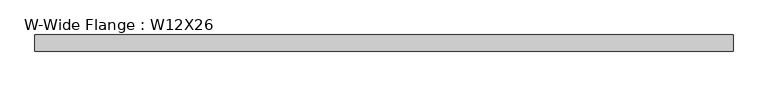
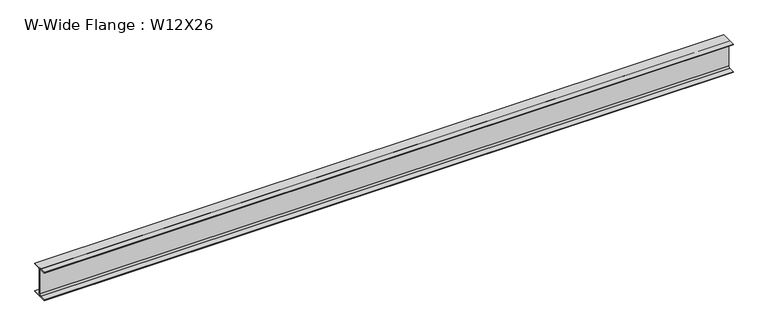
"""IFC4 building model written with IfcOpenShell, lengths in millimetres: beam geometry, W-Wide Flange : W12X26."""

from ifc_helpers import new_model, si_unit, point, frame, frame_2d, origin, place, context, project, spatial, polyline, circle_curve, trimmed, segment, composite_curve, outline, extrude, source, transform, mapped, element, save


def w_wide_flange_w12x26_2a9d9cf0(model_context):
    return source(origin(), model_context, "Body", "SweptSolid", [
        extrude(outline(composite_curve([segment(polyline([(82.4011719, -145.5539063), (82.4011719, -155.178125), (-82.4011719, -155.178125), (-82.4011719, -145.5539063), (-20.2902344, -145.5539063)]), True, "CONTINUOUS"), segment(trimmed(circle_curve(frame_2d((-20.2902344, -128.190625)), 17.3632812), [point((-20.2902344, -145.5539063))], [point((-2.9269531, -128.190625))], True, "CARTESIAN"), True, "CONTINUOUS"), segment(polyline([(-2.9269531, -128.190625), (-2.9269531, 128.190625)]), True, "CONTINUOUS"), segment(trimmed(circle_curve(frame_2d((-20.2902344, 128.190625)), 17.3632812), [point((-2.9269531, 128.190625))], [point((-20.2902344, 145.5539062))], True, "CARTESIAN"), True, "CONTINUOUS"), segment(polyline([(-20.2902344, 145.5539062), (-82.4011719, 145.5539062), (-82.4011719, 155.178125), (82.4011719, 155.178125), (82.4011719, 145.5539062), (20.2902344, 145.5539062)]), True, "CONTINUOUS"), segment(trimmed(circle_curve(frame_2d((20.2902344, 128.190625)), 17.3632812), [point((20.2902344, 145.5539062))], [point((2.9269531, 128.190625))], True, "CARTESIAN"), True, "CONTINUOUS"), segment(polyline([(2.9269531, 128.190625), (2.9269531, -128.190625)]), True, "CONTINUOUS"), segment(trimmed(circle_curve(frame_2d((20.2902344, -128.190625)), 17.3632812), [point((2.9269531, -128.190625))], [point((20.2902344, -145.5539063))], True, "CARTESIAN"), True, "CONTINUOUS"), segment(polyline([(20.2902344, -145.5539063), (82.4011719, -145.5539063)]), True, "CONTINUOUS")], self_intersect=False)), frame((-3559.4230469, 0.0, 0.0), z_axis=(1.0, 0.0, 0.0), x_axis=(0.0, 1.0, 0.0)), (0.0, 0.0, 1.0), 7118.8460937),
    ])


if __name__ == "__main__":
    model = new_model("IFC4")
    model_context = context("Model", 3, world=origin())
    ifc_project = project(units=[si_unit("LENGTHUNIT", "METRE", prefix="MILLI")], contexts=[model_context])
    site = spatial("IfcSite", under=ifc_project)
    building = spatial("IfcBuilding", under=site)
    placement = place(None, origin())
    w_wide_flange_w12x26_shape = w_wide_flange_w12x26_2a9d9cf0(model_context)
    element("IfcBeam", 1, ObjectType="W-Wide Flange : W12X26", at=placement, inside=building, context=model_context, shape_type="MappedRepresentation", body=[
        mapped(w_wide_flange_w12x26_shape, transform((0.0, 0.0, 0.0), x_axis=(1.0, 0.0, 0.0), y_axis=(0.0, 1.0, 0.0), z_axis=(0.0, 0.0, 1.0))),
    ])
    save(model, "model.ifc")
